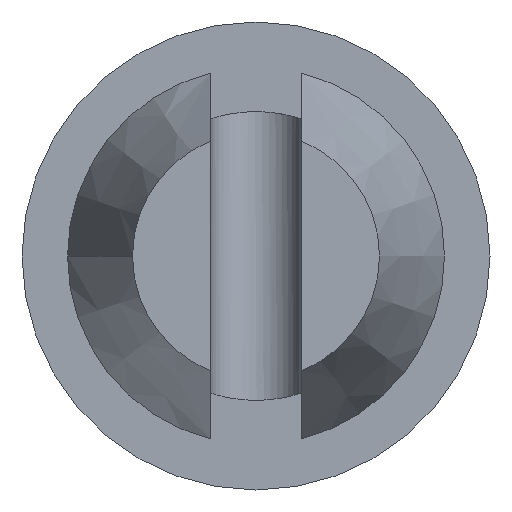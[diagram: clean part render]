
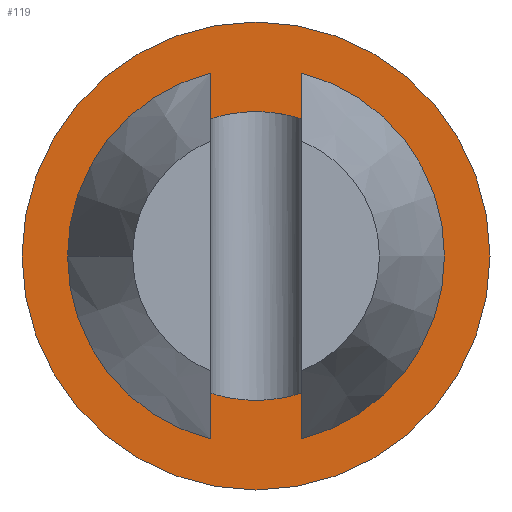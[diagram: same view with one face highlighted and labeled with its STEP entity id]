
A CAD part, front view. The second image highlights one B-rep face of the part: STEP entity #119.
In plain terms, the highlighted planar face has unit normal (0, -1, 0).
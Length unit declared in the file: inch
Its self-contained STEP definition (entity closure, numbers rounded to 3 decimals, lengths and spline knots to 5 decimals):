
#88 = EDGE_CURVE ( 'NONE', #89, #90, #604, .T. ) ;
#89 = VERTEX_POINT ( 'NONE', #599 ) ;
#90 = VERTEX_POINT ( 'NONE', #598 ) ;
#119 = ADVANCED_FACE ( 'NONE', ( #531, #530 ), #529, .T. ) ;
#120 = EDGE_LOOP ( 'NONE', ( #121, #122 ) ) ;
#121 = ORIENTED_EDGE ( 'NONE', *, *, #203, .T. ) ;
#122 = ORIENTED_EDGE ( 'NONE', *, *, #412, .T. ) ;
#201 = VERTEX_POINT ( 'NONE', #732 ) ;
#203 = EDGE_CURVE ( 'NONE', #205, #201, #731, .T. ) ;
#205 = VERTEX_POINT ( 'NONE', #796 ) ;
#412 = EDGE_CURVE ( 'NONE', #201, #205, #837, .T. ) ;
#413 = EDGE_LOOP ( 'NONE', ( #414, #415 ) ) ;
#414 = ORIENTED_EDGE ( 'NONE', *, *, #88, .F. ) ;
#415 = ORIENTED_EDGE ( 'NONE', *, *, #429, .F. ) ;
#429 = EDGE_CURVE ( 'NONE', #90, #89, #872, .T. ) ;
#525 = DIRECTION ( 'NONE',  ( 1., 0., 0. ) ) ;
#526 = DIRECTION ( 'NONE',  ( 0., -1., 0. ) ) ;
#527 = CARTESIAN_POINT ( 'NONE',  ( 0.0555, 0.14, 0. ) ) ;
#528 = AXIS2_PLACEMENT_3D ( 'NONE', #527, #526, #525 ) ;
#529 = PLANE ( 'NONE',  #528 ) ;
#530 = FACE_BOUND ( 'NONE', #413, .T. ) ;
#531 = FACE_OUTER_BOUND ( 'NONE', #120, .T. ) ;
#598 = CARTESIAN_POINT ( 'NONE',  ( -0.0555, 0.14, 0. ) ) ;
#599 = CARTESIAN_POINT ( 'NONE',  ( 0.0555, 0.14, 0. ) ) ;
#600 = DIRECTION ( 'NONE',  ( 1., 0., 0. ) ) ;
#601 = DIRECTION ( 'NONE',  ( 0., -1., 0. ) ) ;
#602 = CARTESIAN_POINT ( 'NONE',  ( 0., 0.14, 0. ) ) ;
#603 = AXIS2_PLACEMENT_3D ( 'NONE', #602, #601, #600 ) ;
#604 = CIRCLE ( 'NONE', #603, 0.0555 ) ;
#727 = DIRECTION ( 'NONE',  ( 1., 0., 0. ) ) ;
#728 = DIRECTION ( 'NONE',  ( 0., -1., 0. ) ) ;
#729 = CARTESIAN_POINT ( 'NONE',  ( 0., 0.14, 0. ) ) ;
#730 = AXIS2_PLACEMENT_3D ( 'NONE', #729, #728, #727 ) ;
#731 = CIRCLE ( 'NONE', #730, 0.09 ) ;
#732 = CARTESIAN_POINT ( 'NONE',  ( -0.09, 0.14, 0. ) ) ;
#796 = CARTESIAN_POINT ( 'NONE',  ( 0.09, 0.14, 0. ) ) ;
#834 = DIRECTION ( 'NONE',  ( 1., 0., 0. ) ) ;
#835 = DIRECTION ( 'NONE',  ( 0., -1., 0. ) ) ;
#836 = AXIS2_PLACEMENT_3D ( 'NONE', #860, #835, #834 ) ;
#837 = CIRCLE ( 'NONE', #836, 0.09 ) ;
#860 = CARTESIAN_POINT ( 'NONE',  ( 0., 0.14, 0. ) ) ;
#870 = CARTESIAN_POINT ( 'NONE',  ( 0., 0.14, 0. ) ) ;
#871 = AXIS2_PLACEMENT_3D ( 'NONE', #870, #874, #873 ) ;
#872 = CIRCLE ( 'NONE', #871, 0.0555 ) ;
#873 = DIRECTION ( 'NONE',  ( 1., 0., 0. ) ) ;
#874 = DIRECTION ( 'NONE',  ( 0., -1., 0. ) ) ;
